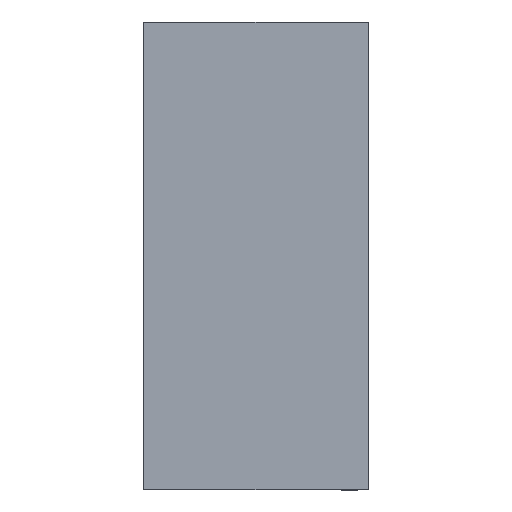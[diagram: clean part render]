
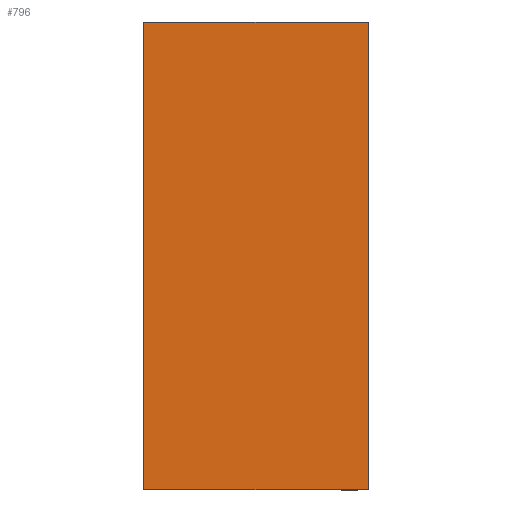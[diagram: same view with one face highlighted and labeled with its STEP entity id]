
A CAD part, left-side view. The second image highlights one B-rep face of the part: STEP entity #796.
In plain terms, the highlighted planar face has unit normal (-1, 0, 0).
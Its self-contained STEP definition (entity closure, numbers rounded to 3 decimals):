
#14 = VERTEX_POINT ( 'NONE', #805 ) ;
#226 = CARTESIAN_POINT ( 'NONE',  ( -2.5, 0., 1.25 ) ) ;
#253 = CARTESIAN_POINT ( 'NONE',  ( -2.5, 0., 1.25 ) ) ;
#263 = LINE ( 'NONE', #1195, #749 ) ;
#297 = EDGE_CURVE ( 'NONE', #467, #348, #316, .T. ) ;
#314 = CARTESIAN_POINT ( 'NONE',  ( -2.5, 0., 1.25 ) ) ;
#316 = LINE ( 'NONE', #1021, #329 ) ;
#329 = VECTOR ( 'NONE', #370, 1000. ) ;
#339 = DIRECTION ( 'NONE',  ( 0., -1., 0. ) ) ;
#348 = VERTEX_POINT ( 'NONE', #485 ) ;
#370 = DIRECTION ( 'NONE',  ( 0., -1., 0. ) ) ;
#440 = LINE ( 'NONE', #596, #1111 ) ;
#467 = VERTEX_POINT ( 'NONE', #1063 ) ;
#485 = CARTESIAN_POINT ( 'NONE',  ( -2.5, 0., -1.25 ) ) ;
#596 = CARTESIAN_POINT ( 'NONE',  ( -2.5, 1.2, 1.25 ) ) ;
#600 = LINE ( 'NONE', #226, #631 ) ;
#631 = VECTOR ( 'NONE', #879, 1000. ) ;
#749 = VECTOR ( 'NONE', #339, 1000. ) ;
#785 = PLANE ( 'NONE',  #978 ) ;
#795 = ORIENTED_EDGE ( 'NONE', *, *, #297, .T. ) ;
#796 = ADVANCED_FACE ( 'NONE', ( #845 ), #785, .F. ) ;
#799 = EDGE_CURVE ( 'NONE', #14, #467, #440, .T. ) ;
#803 = EDGE_LOOP ( 'NONE', ( #795, #1016, #939, #875 ) ) ;
#805 = CARTESIAN_POINT ( 'NONE',  ( -2.5, 1.2, 1.25 ) ) ;
#845 = FACE_OUTER_BOUND ( 'NONE', #803, .T. ) ;
#875 = ORIENTED_EDGE ( 'NONE', *, *, #799, .T. ) ;
#879 = DIRECTION ( 'NONE',  ( 0., 0., -1. ) ) ;
#939 = ORIENTED_EDGE ( 'NONE', *, *, #1185, .F. ) ;
#960 = DIRECTION ( 'NONE',  ( 1., 0., 0. ) ) ;
#978 = AXIS2_PLACEMENT_3D ( 'NONE', #314, #960, #1065 ) ;
#1016 = ORIENTED_EDGE ( 'NONE', *, *, #1060, .F. ) ;
#1021 = CARTESIAN_POINT ( 'NONE',  ( -2.5, 0., -1.25 ) ) ;
#1056 = DIRECTION ( 'NONE',  ( 0., 0., -1. ) ) ;
#1060 = EDGE_CURVE ( 'NONE', #1085, #348, #600, .T. ) ;
#1063 = CARTESIAN_POINT ( 'NONE',  ( -2.5, 1.2, -1.25 ) ) ;
#1065 = DIRECTION ( 'NONE',  ( 0., 0., -1. ) ) ;
#1085 = VERTEX_POINT ( 'NONE', #253 ) ;
#1111 = VECTOR ( 'NONE', #1056, 1000. ) ;
#1185 = EDGE_CURVE ( 'NONE', #14, #1085, #263, .T. ) ;
#1195 = CARTESIAN_POINT ( 'NONE',  ( -2.5, 0., 1.25 ) ) ;
